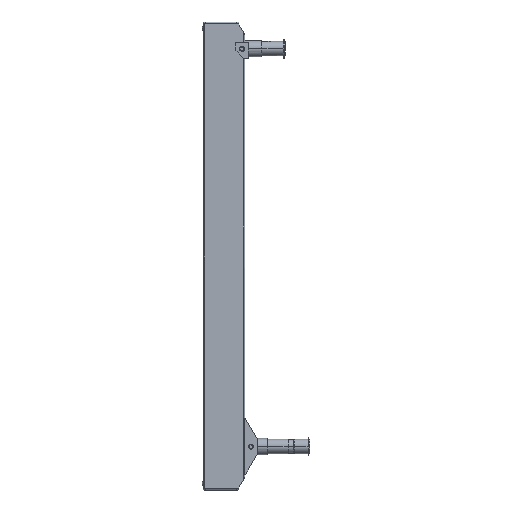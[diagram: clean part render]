
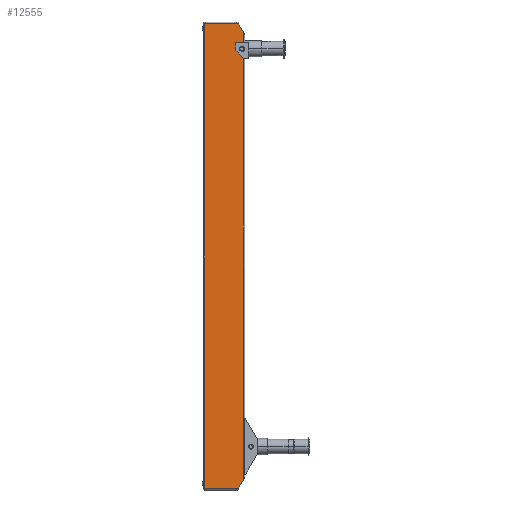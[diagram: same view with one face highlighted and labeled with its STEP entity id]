
A CAD part, left-side view. The second image highlights one B-rep face of the part: STEP entity #12555.
In plain terms, the highlighted planar face has unit normal (-1, 0, 0).
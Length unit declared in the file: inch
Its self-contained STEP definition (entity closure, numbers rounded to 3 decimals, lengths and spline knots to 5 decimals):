
#1111 = EDGE_CURVE ( 'NONE', #15367, #35600, #39542, .T. ) ;
#1288 = ORIENTED_EDGE ( 'NONE', *, *, #8848, .T. ) ;
#1911 = VECTOR ( 'NONE', #57502, 39.37008 ) ;
#1913 = CARTESIAN_POINT ( 'NONE',  ( -1.5, -2.125, 28. ) ) ;
#2497 = DIRECTION ( 'NONE',  ( 0., 1., 0. ) ) ;
#3420 = DIRECTION ( 'NONE',  ( 0., 0., -1. ) ) ;
#3539 = LINE ( 'NONE', #14140, #39648 ) ;
#3550 = CARTESIAN_POINT ( 'NONE',  ( -1.5, -2.4, 0.47631 ) ) ;
#4088 = EDGE_CURVE ( 'NONE', #34254, #49295, #45014, .T. ) ;
#4469 = EDGE_CURVE ( 'NONE', #21541, #48890, #23685, .T. ) ;
#7854 = LINE ( 'NONE', #12184, #54450 ) ;
#7920 = EDGE_CURVE ( 'NONE', #34254, #46750, #3539, .T. ) ;
#8009 = CARTESIAN_POINT ( 'NONE',  ( -1.5, -2.315, 26.5 ) ) ;
#8848 = EDGE_CURVE ( 'NONE', #18964, #15367, #38916, .T. ) ;
#9454 = EDGE_CURVE ( 'NONE', #46750, #11302, #43974, .T. ) ;
#10499 = CARTESIAN_POINT ( 'NONE',  ( -1.5, -2.4, 27.52369 ) ) ;
#10888 = CARTESIAN_POINT ( 'NONE',  ( -1.5, -2.4, 28. ) ) ;
#11302 = VERTEX_POINT ( 'NONE', #13460 ) ;
#12184 = CARTESIAN_POINT ( 'NONE',  ( -1.5, -0.1, 0. ) ) ;
#12555 = ADVANCED_FACE ( 'NONE', ( #13036 ), #54096, .T. ) ;
#12672 = DIRECTION ( 'NONE',  ( 1., 0., 0. ) ) ;
#13036 = FACE_OUTER_BOUND ( 'NONE', #53547, .T. ) ;
#13460 = CARTESIAN_POINT ( 'NONE',  ( -1.5, -2.17438, 26.5 ) ) ;
#13590 = ORIENTED_EDGE ( 'NONE', *, *, #46898, .T. ) ;
#14140 = CARTESIAN_POINT ( 'NONE',  ( -1.5, -2.5, 26.375 ) ) ;
#14288 = VECTOR ( 'NONE', #2497, 39.37008 ) ;
#14884 = VECTOR ( 'NONE', #65150, 39.37008 ) ;
#15367 = VERTEX_POINT ( 'NONE', #56586 ) ;
#15429 = AXIS2_PLACEMENT_3D ( 'NONE', #54307, #64897, #59933 ) ;
#16022 = AXIS2_PLACEMENT_3D ( 'NONE', #8009, #12672, #32889 ) ;
#18964 = VERTEX_POINT ( 'NONE', #1913 ) ;
#20875 = DIRECTION ( 'NONE',  ( 0., -1., 0. ) ) ;
#21541 = VERTEX_POINT ( 'NONE', #10499 ) ;
#22411 = CARTESIAN_POINT ( 'NONE',  ( -1.5, -2.4, 28. ) ) ;
#22995 = CARTESIAN_POINT ( 'NONE',  ( -1.5, -0.1, 28. ) ) ;
#23685 = LINE ( 'NONE', #22411, #35776 ) ;
#23821 = ORIENTED_EDGE ( 'NONE', *, *, #32750, .T. ) ;
#27793 = CARTESIAN_POINT ( 'NONE',  ( -1.5, -2.5, 0.64952 ) ) ;
#27866 = EDGE_CURVE ( 'NONE', #21541, #18964, #55229, .T. ) ;
#28989 = VERTEX_POINT ( 'NONE', #44173 ) ;
#29293 = CARTESIAN_POINT ( 'NONE',  ( -1.5, -2.37942, 26.625 ) ) ;
#30857 = ORIENTED_EDGE ( 'NONE', *, *, #4469, .F. ) ;
#31708 = CARTESIAN_POINT ( 'NONE',  ( -1.5, -0.1, 0. ) ) ;
#32750 = EDGE_CURVE ( 'NONE', #28989, #49295, #53583, .T. ) ;
#32889 = DIRECTION ( 'NONE',  ( 0., 1., 0. ) ) ;
#34254 = VERTEX_POINT ( 'NONE', #56708 ) ;
#34700 = CARTESIAN_POINT ( 'NONE',  ( -1.5, -2.5, 27.35048 ) ) ;
#35600 = VERTEX_POINT ( 'NONE', #31708 ) ;
#35776 = VECTOR ( 'NONE', #42600, 39.37008 ) ;
#38342 = EDGE_CURVE ( 'NONE', #46098, #48890, #61270, .T. ) ;
#38916 = LINE ( 'NONE', #58458, #14288 ) ;
#39542 = LINE ( 'NONE', #64034, #52680 ) ;
#39648 = VECTOR ( 'NONE', #59190, 39.37008 ) ;
#40397 = ORIENTED_EDGE ( 'NONE', *, *, #54567, .F. ) ;
#41153 = CARTESIAN_POINT ( 'NONE',  ( -1.5, -2.4, 26.625 ) ) ;
#42600 = DIRECTION ( 'NONE',  ( 0., 0., -1. ) ) ;
#42827 = VECTOR ( 'NONE', #20875, 39.37008 ) ;
#43974 = CIRCLE ( 'NONE', #15429, 0.14062 ) ;
#44173 = CARTESIAN_POINT ( 'NONE',  ( -1.5, -2.125, 0. ) ) ;
#44560 = CIRCLE ( 'NONE', #16022, 0.14062 ) ;
#45014 = LINE ( 'NONE', #10888, #1911 ) ;
#46098 = VERTEX_POINT ( 'NONE', #29293 ) ;
#46380 = CARTESIAN_POINT ( 'NONE',  ( -1.5, -2.5, 26.625 ) ) ;
#46750 = VERTEX_POINT ( 'NONE', #63675 ) ;
#46898 = EDGE_CURVE ( 'NONE', #11302, #46098, #44560, .T. ) ;
#47318 = DIRECTION ( 'NONE',  ( 0., 1., 0. ) ) ;
#47885 = VECTOR ( 'NONE', #62589, 39.37008 ) ;
#48890 = VERTEX_POINT ( 'NONE', #41153 ) ;
#49111 = DIRECTION ( 'NONE',  ( 0., -1., 0. ) ) ;
#49295 = VERTEX_POINT ( 'NONE', #3550 ) ;
#49416 = ORIENTED_EDGE ( 'NONE', *, *, #9454, .T. ) ;
#50396 = AXIS2_PLACEMENT_3D ( 'NONE', #22995, #59733, #49111 ) ;
#52680 = VECTOR ( 'NONE', #3420, 39.37008 ) ;
#53547 = EDGE_LOOP ( 'NONE', ( #55848, #1288, #63215, #40397, #23821, #55361, #55315, #49416, #13590, #60941, #30857 ) ) ;
#53583 = LINE ( 'NONE', #27793, #47885 ) ;
#54096 = PLANE ( 'NONE',  #50396 ) ;
#54307 = CARTESIAN_POINT ( 'NONE',  ( -1.5, -2.315, 26.5 ) ) ;
#54450 = VECTOR ( 'NONE', #47318, 39.37008 ) ;
#54567 = EDGE_CURVE ( 'NONE', #28989, #35600, #7854, .T. ) ;
#55229 = LINE ( 'NONE', #34700, #14884 ) ;
#55315 = ORIENTED_EDGE ( 'NONE', *, *, #7920, .T. ) ;
#55361 = ORIENTED_EDGE ( 'NONE', *, *, #4088, .F. ) ;
#55848 = ORIENTED_EDGE ( 'NONE', *, *, #27866, .T. ) ;
#56586 = CARTESIAN_POINT ( 'NONE',  ( -1.5, -0.1, 28. ) ) ;
#56708 = CARTESIAN_POINT ( 'NONE',  ( -1.5, -2.4, 26.375 ) ) ;
#57502 = DIRECTION ( 'NONE',  ( 0., 0., -1. ) ) ;
#58458 = CARTESIAN_POINT ( 'NONE',  ( -1.5, -0.1, 28. ) ) ;
#59190 = DIRECTION ( 'NONE',  ( 0., 1., 0. ) ) ;
#59733 = DIRECTION ( 'NONE',  ( -1., 0., 0. ) ) ;
#59933 = DIRECTION ( 'NONE',  ( 0., 1., 0. ) ) ;
#60941 = ORIENTED_EDGE ( 'NONE', *, *, #38342, .T. ) ;
#61270 = LINE ( 'NONE', #46380, #42827 ) ;
#62589 = DIRECTION ( 'NONE',  ( 0., -0.5, 0.866 ) ) ;
#63215 = ORIENTED_EDGE ( 'NONE', *, *, #1111, .T. ) ;
#63675 = CARTESIAN_POINT ( 'NONE',  ( -1.5, -2.37942, 26.375 ) ) ;
#64034 = CARTESIAN_POINT ( 'NONE',  ( -1.5, -0.1, 28. ) ) ;
#64897 = DIRECTION ( 'NONE',  ( 1., 0., 0. ) ) ;
#65150 = DIRECTION ( 'NONE',  ( 0., 0.5, 0.866 ) ) ;
